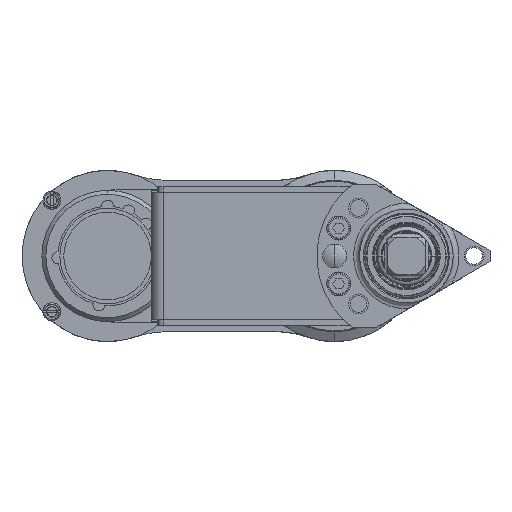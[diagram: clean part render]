
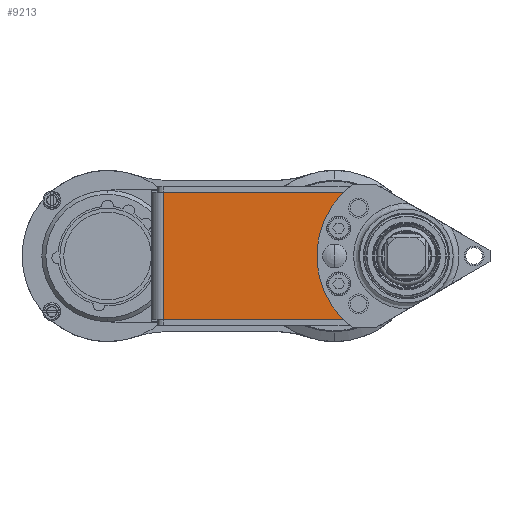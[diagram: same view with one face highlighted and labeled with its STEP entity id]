
A CAD part, left-side view. The second image highlights one B-rep face of the part: STEP entity #9213.
In plain terms, the highlighted planar face has unit normal (-1, 0, 0).
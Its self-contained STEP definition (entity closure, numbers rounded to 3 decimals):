
#7879=CARTESIAN_POINT('',(0.,17.,7.));
#7880=DIRECTION('',(1.,0.,0.));
#7881=DIRECTION('',(0.,0.,1.));
#7882=AXIS2_PLACEMENT_3D('',#7879,#7880,#7881);
#7887=CARTESIAN_POINT('',(0.,17.,7.));
#7888=DIRECTION('',(1.,0.,0.));
#7889=DIRECTION('',(0.,0.,-1.));
#7890=AXIS2_PLACEMENT_3D('',#7887,#7888,#7889);
#7895=CARTESIAN_POINT('',(0.,17.,-7.));
#7896=DIRECTION('',(1.,0.,0.));
#7897=DIRECTION('',(0.,0.,1.));
#7898=AXIS2_PLACEMENT_3D('',#7895,#7896,#7897);
#7903=CARTESIAN_POINT('',(0.,17.,-7.));
#7904=DIRECTION('',(1.,0.,0.));
#7905=DIRECTION('',(0.,0.,-1.));
#7906=AXIS2_PLACEMENT_3D('',#7903,#7904,#7905);
#7911=CARTESIAN_POINT('',(0.,12.021,12.021));
#7912=DIRECTION('',(-1.,0.,0.));
#7913=DIRECTION('',(0.,0.,1.));
#7914=AXIS2_PLACEMENT_3D('',#7911,#7912,#7913);
#7919=CARTESIAN_POINT('',(0.,12.021,12.021));
#7920=DIRECTION('',(-1.,0.,0.));
#7921=DIRECTION('',(0.,0.,-1.));
#7922=AXIS2_PLACEMENT_3D('',#7919,#7920,#7921);
#7927=CARTESIAN_POINT('',(0.,12.021,-12.021));
#7928=DIRECTION('',(-1.,0.,0.));
#7929=DIRECTION('',(0.,0.,1.));
#7930=AXIS2_PLACEMENT_3D('',#7927,#7928,#7929);
#7935=CARTESIAN_POINT('',(0.,12.021,-12.021));
#7936=DIRECTION('',(-1.,0.,0.));
#7937=DIRECTION('',(0.,0.,-1.));
#7938=AXIS2_PLACEMENT_3D('',#7935,#7936,#7937);
#7943=DIRECTION('',(0.,0.,-1.));
#7944=VECTOR('',#7943,6.685);
#7945=CARTESIAN_POINT('',(0.,5.85,16.));
#7946=LINE('',#7945,#7944);
#7950=DIRECTION('',(0.,0.,-1.));
#7951=VECTOR('',#7950,6.685);
#7952=CARTESIAN_POINT('',(0.,5.85,-9.315));
#7953=LINE('',#7952,#7951);
#7957=DIRECTION('',(0.,1.,0.));
#7958=VECTOR('',#7957,55.15);
#7959=CARTESIAN_POINT('',(0.,5.85,-16.));
#7960=LINE('',#7959,#7958);
#7964=DIRECTION('',(0.,-1.,0.));
#7965=VECTOR('',#7964,55.15);
#7966=CARTESIAN_POINT('',(0.,61.,16.));
#7967=LINE('',#7966,#7965);
#8034=DIRECTION('',(0.,0.,1.));
#8035=VECTOR('',#8034,32.);
#8036=CARTESIAN_POINT('',(0.,61.,-16.));
#8037=LINE('',#8036,#8035);
#8137=CARTESIAN_POINT('',(0.,0.,0.));
#8138=DIRECTION('',(1.,0.,0.));
#8139=DIRECTION('',(0.,0.532,-0.847));
#8140=AXIS2_PLACEMENT_3D('',#8137,#8138,#8139);
#8261=CARTESIAN_POINT('',(0.,17.,-4.9));
#8262=CARTESIAN_POINT('',(0.,17.,-9.1));
#8263=VERTEX_POINT('',#8261);
#8264=VERTEX_POINT('',#8262);
#8285=CARTESIAN_POINT('',(0.,17.,9.1));
#8286=CARTESIAN_POINT('',(0.,17.,4.9));
#8287=VERTEX_POINT('',#8285);
#8288=VERTEX_POINT('',#8286);
#8289=CARTESIAN_POINT('',(0.,12.021,15.121));
#8290=CARTESIAN_POINT('',(0.,12.021,8.921));
#8291=VERTEX_POINT('',#8289);
#8292=VERTEX_POINT('',#8290);
#8293=CARTESIAN_POINT('',(0.,12.021,-8.921));
#8294=CARTESIAN_POINT('',(0.,12.021,-15.121));
#8295=VERTEX_POINT('',#8293);
#8296=VERTEX_POINT('',#8294);
#8314=CARTESIAN_POINT('',(0.,61.,-16.));
#8315=VERTEX_POINT('',#8314);
#8343=CARTESIAN_POINT('',(0.,61.,16.));
#8344=VERTEX_POINT('',#8343);
#8351=CARTESIAN_POINT('',(0.,5.85,16.));
#8352=CARTESIAN_POINT('',(0.,5.85,9.315));
#8353=VERTEX_POINT('',#8351);
#8354=VERTEX_POINT('',#8352);
#8355=CARTESIAN_POINT('',(0.,5.85,-9.315));
#8356=CARTESIAN_POINT('',(0.,5.85,-16.));
#8357=VERTEX_POINT('',#8355);
#8358=VERTEX_POINT('',#8356);
#9172=CARTESIAN_POINT('',(0.,0.,0.));
#9173=DIRECTION('',(1.,0.,0.));
#9174=DIRECTION('',(0.,0.,-1.));
#9175=AXIS2_PLACEMENT_3D('',#9172,#9173,#9174);
#9176=PLANE('',#9175);
#9178=ORIENTED_EDGE('',*,*,#9177,.T.);
#9180=ORIENTED_EDGE('',*,*,#9179,.F.);
#9182=ORIENTED_EDGE('',*,*,#9181,.T.);
#9184=ORIENTED_EDGE('',*,*,#9183,.T.);
#9186=ORIENTED_EDGE('',*,*,#9185,.T.);
#9188=ORIENTED_EDGE('',*,*,#9187,.T.);
#9189=EDGE_LOOP('',(#9178,#9180,#9182,#9184,#9186,#9188));
#9190=FACE_OUTER_BOUND('',#9189,.F.);
#9192=ORIENTED_EDGE('',*,*,#9191,.F.);
#9194=ORIENTED_EDGE('',*,*,#9193,.F.);
#9195=EDGE_LOOP('',(#9192,#9194));
#9196=FACE_BOUND('',#9195,.F.);
#9197=ORIENTED_EDGE('',*,*,#9152,.F.);
#9198=ORIENTED_EDGE('',*,*,#9166,.F.);
#9199=EDGE_LOOP('',(#9197,#9198));
#9200=FACE_BOUND('',#9199,.F.);
#9202=ORIENTED_EDGE('',*,*,#9201,.T.);
#9204=ORIENTED_EDGE('',*,*,#9203,.T.);
#9205=EDGE_LOOP('',(#9202,#9204));
#9206=FACE_BOUND('',#9205,.F.);
#9208=ORIENTED_EDGE('',*,*,#9207,.T.);
#9210=ORIENTED_EDGE('',*,*,#9209,.T.);
#9211=EDGE_LOOP('',(#9208,#9210));
#9212=FACE_BOUND('',#9211,.F.);
#9213=ADVANCED_FACE('',(#9190,#9196,#9200,#9206,#9212),#9176,.F.);
#7883=CIRCLE('',#7882,2.1);
#7891=CIRCLE('',#7890,2.1);
#7899=CIRCLE('',#7898,2.1);
#7907=CIRCLE('',#7906,2.1);
#7915=CIRCLE('',#7914,3.1);
#7923=CIRCLE('',#7922,3.1);
#7931=CIRCLE('',#7930,3.1);
#7939=CIRCLE('',#7938,3.1);
#8141=CIRCLE('',#8140,11.);
#9152=EDGE_CURVE('',#8263,#8264,#7899,.T.);
#9166=EDGE_CURVE('',#8264,#8263,#7907,.T.);
#9177=EDGE_CURVE('',#8353,#8354,#7946,.T.);
#9179=EDGE_CURVE('',#8357,#8354,#8141,.T.);
#9181=EDGE_CURVE('',#8357,#8358,#7953,.T.);
#9183=EDGE_CURVE('',#8358,#8315,#7960,.T.);
#9185=EDGE_CURVE('',#8315,#8344,#8037,.T.);
#9187=EDGE_CURVE('',#8344,#8353,#7967,.T.);
#9191=EDGE_CURVE('',#8287,#8288,#7883,.T.);
#9193=EDGE_CURVE('',#8288,#8287,#7891,.T.);
#9201=EDGE_CURVE('',#8291,#8292,#7915,.T.);
#9203=EDGE_CURVE('',#8292,#8291,#7923,.T.);
#9207=EDGE_CURVE('',#8295,#8296,#7931,.T.);
#9209=EDGE_CURVE('',#8296,#8295,#7939,.T.);
